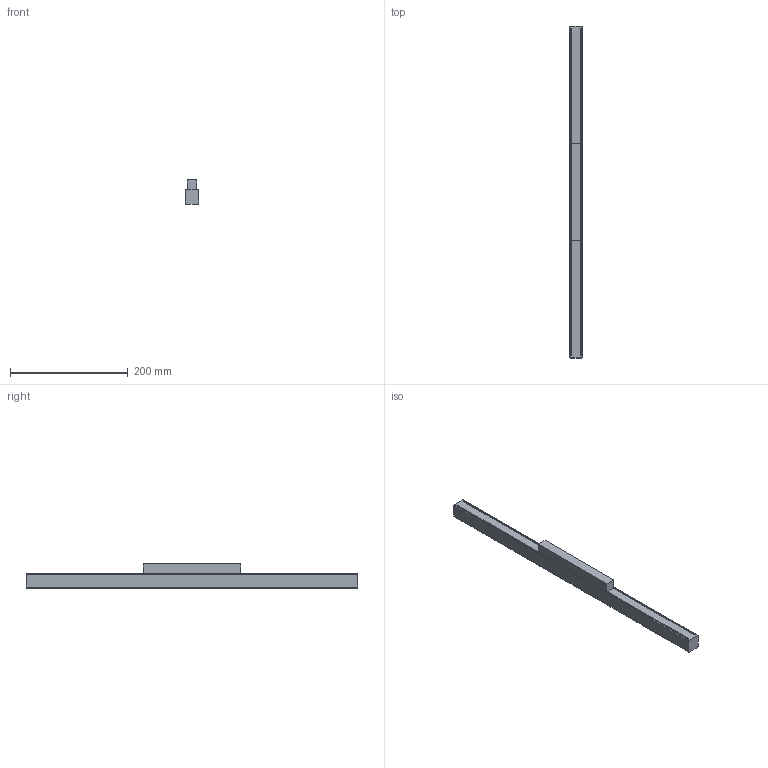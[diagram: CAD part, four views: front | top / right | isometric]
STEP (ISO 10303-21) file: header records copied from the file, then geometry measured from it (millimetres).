
FILE_DESCRIPTION(/* description */ (''),/* implementation_level */ '2;1');
FILE_NAME(/* name */ 'B430__.060',/* time_stamp */ '2024-08-30T11:25:55+02:00',/* author */ (''),/* organization */ (''),/* preprocessor_version */ 'ST-DEVELOPER v16.5',/* originating_system */ '',/* authorisation */ '');
FILE_SCHEMA (('AUTOMOTIVE_DESIGN'));
Length unit declared in the file: millimetre
Products named in the file (3): Document; B430__.060; B430__.__ - Volume_B430__.060
Assembly tree (2 placements, depth 3):
  Document
    B430__.060
      B430__.__ - Volume_B430__.060
Bounding box: 22.5 x 564.5 x 41.9 mm (x, y, z)
Volume: 315603.8 mm3; surface area: 85482.9 mm2
Topology: 1 solids, 1 shells, 123 faces, 356 edges, 236 vertices
Faces by surface type: plane 71, bspline 52
Entity records: 5334 total; most frequent: CARTESIAN_POINT 3169, ORIENTED_EDGE 712, EDGE_CURVE 356, VERTEX_POINT 236, B_SPLINE_CURVE_WITH_KNOTS 204, EDGE_LOOP 124, ADVANCED_FACE 123, FACE_OUTER_BOUND 123
